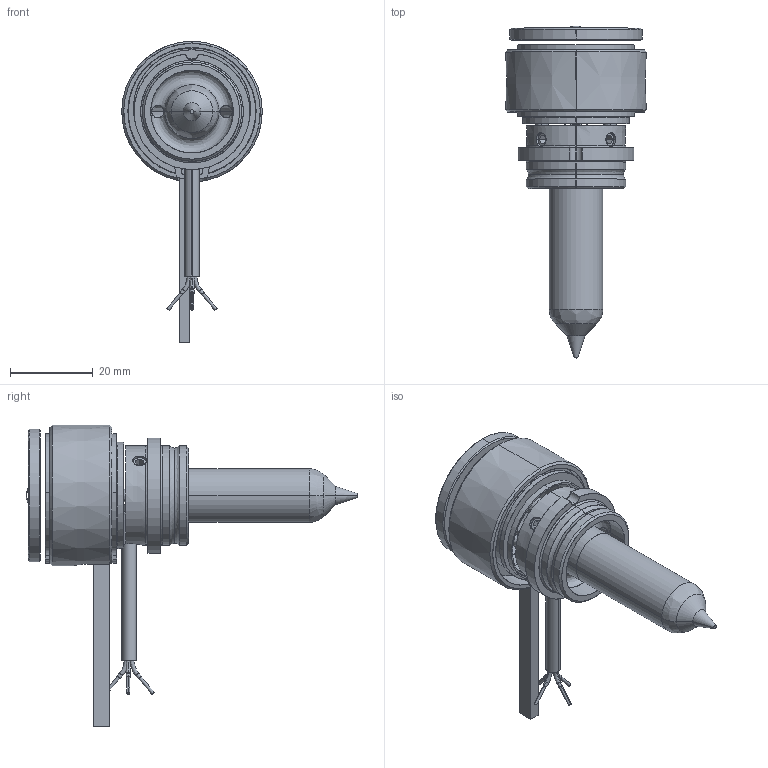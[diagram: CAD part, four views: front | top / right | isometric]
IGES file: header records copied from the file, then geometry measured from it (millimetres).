
Start section: SolidWorks IGES file using analytic representation for surfaces
Global section: file name: C:\Documents and Settings\ws-20\Desktop\TEM\UGGS2520-S-1 [Øf-0.89].IGS; native system: SolidWorks 2012; preprocessor: SolidWorks 2012; author: ws-20; date: 120516.093020; units: millimetre
Bounding box: 34 x 80.3 x 72.9 mm (x, y, z)
Surface area: 15890.3 mm2 (no closed solid volume)
Topology: 0 solids, 0 shells, 209 faces, 2973 edges, 2967 vertices
Faces by surface type: revolution 131, bspline 78
